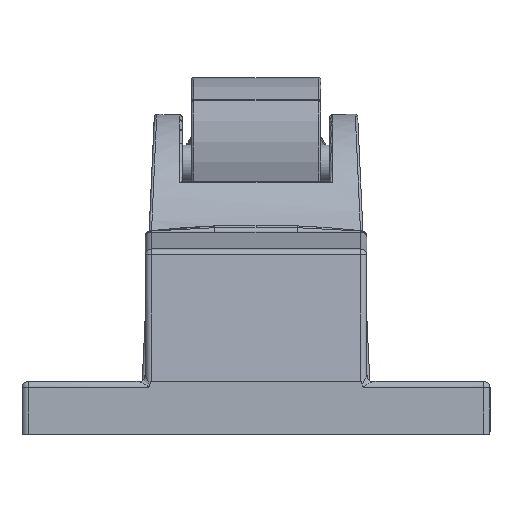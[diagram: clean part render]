
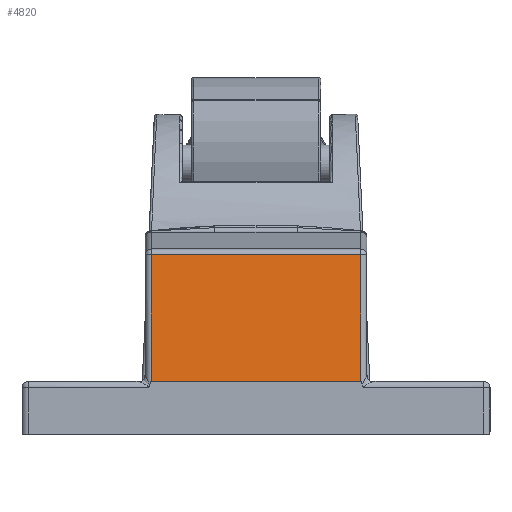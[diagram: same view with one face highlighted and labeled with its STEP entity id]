
A CAD part, left-side view. The second image highlights one B-rep face of the part: STEP entity #4820.
In plain terms, the highlighted planar face has unit normal (-0.997, 0, 0.084) as drawn and (0, -0.996, 0.084) by its records, which use the part's own axes.
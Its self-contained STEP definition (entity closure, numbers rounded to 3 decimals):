
#178=PLANE('',#5199);
#291=LINE('',#7972,#562);
#322=LINE('',#8188,#593);
#323=LINE('',#8197,#594);
#325=LINE('',#8200,#596);
#562=VECTOR('',#5812,10.342);
#593=VECTOR('',#5935,17.);
#594=VECTOR('',#5950,17.);
#596=VECTOR('',#5954,10.342);
#1004=FACE_OUTER_BOUND('',#1336,.T.);
#1336=EDGE_LOOP('',(#3514,#3515,#3516,#3517));
#2122=VERTEX_POINT('',#7969);
#2123=VERTEX_POINT('',#7971);
#2154=VERTEX_POINT('',#8186);
#2155=VERTEX_POINT('',#8193);
#2587=EDGE_CURVE('',#2122,#2123,#291,.T.);
#2649=EDGE_CURVE('',#2122,#2154,#322,.T.);
#2654=EDGE_CURVE('',#2123,#2155,#323,.T.);
#2656=EDGE_CURVE('',#2155,#2154,#325,.T.);
#3514=ORIENTED_EDGE('',*,*,#2656,.F.);
#3515=ORIENTED_EDGE('',*,*,#2654,.F.);
#3516=ORIENTED_EDGE('',*,*,#2587,.F.);
#3517=ORIENTED_EDGE('',*,*,#2649,.T.);
#4820=ADVANCED_FACE('',(#1004),#178,.T.);
#5199=AXIS2_PLACEMENT_3D('',#8203,#5959,#5960);
#5812=DIRECTION('',(0.,0.084,0.996));
#5935=DIRECTION('',(1.,0.,0.));
#5950=DIRECTION('',(1.,0.,0.));
#5954=DIRECTION('',(0.,-0.084,-0.996));
#5959=DIRECTION('center_axis',(0.,-0.996,0.084));
#5960=DIRECTION('ref_axis',(0.,-0.084,-0.996));
#7969=CARTESIAN_POINT('',(-8.5,-6.9,4.3));
#7971=CARTESIAN_POINT('',(-8.5,-6.033,14.605));
#7972=CARTESIAN_POINT('',(-8.5,-6.182,12.84));
#8186=CARTESIAN_POINT('',(8.5,-6.9,4.3));
#8188=CARTESIAN_POINT('',(-19.,-6.9,4.3));
#8193=CARTESIAN_POINT('',(8.5,-6.033,14.605));
#8197=CARTESIAN_POINT('',(0.,-6.033,14.605));
#8200=CARTESIAN_POINT('',(8.5,-6.182,12.84));
#8203=CARTESIAN_POINT('Origin',(0.,-6.,15.));
